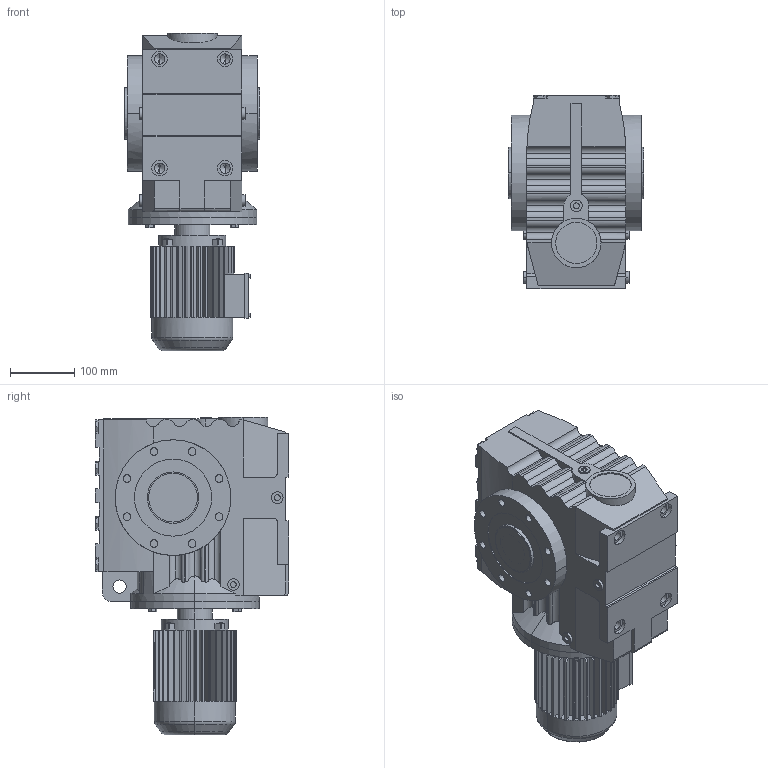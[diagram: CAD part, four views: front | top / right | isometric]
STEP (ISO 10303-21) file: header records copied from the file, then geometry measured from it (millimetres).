
FILE_DESCRIPTION(('Open CASCADE Model'),'2;1');
FILE_NAME('Open CASCADE Shape Model','2021-07-20T11:06:09',('Author'),( 'Open CASCADE'),'Open CASCADE STEP processor 6.3','Open CASCADE 6.3' ,'Unknown');
FILE_SCHEMA(('AUTOMOTIVE_DESIGN_CC2 { 1 2 10303 214 -1 1 5 4 }'));
Length unit declared in the file: millimetre
Products named in the file (4): 1_SA77-Y63S-50-A-W; SA47‵97_77.step; 萇儂_200_Y63S.step; す瑩諾陑粣S_77_50.step
Assembly tree (3 placements, depth 2):
  1_SA77-Y63S-50-A-W
    SA47‵97_77.step
    萇儂_200_Y63S.step
    す瑩諾陑粣S_77_50.step
Bounding box: 211.05 x 301 x 494 mm (x, y, z)
Volume: 15124404.5 mm3; surface area: 817142.8 mm2
Topology: 3 solids, 3 shells, 821 faces, 2142 edges, 1388 vertices
Faces by surface type: plane 527, cylinder 275, cone 15, torus 4
Entity records: 60913 total; most frequent: CARTESIAN_POINT 20681, DIRECTION 6837, ORIENTED_EDGE 4268, PCURVE 4268, DEFINITIONAL_REPRESENTATION 4268, LINE 3530, VECTOR 3530, EDGE_CURVE 2134
